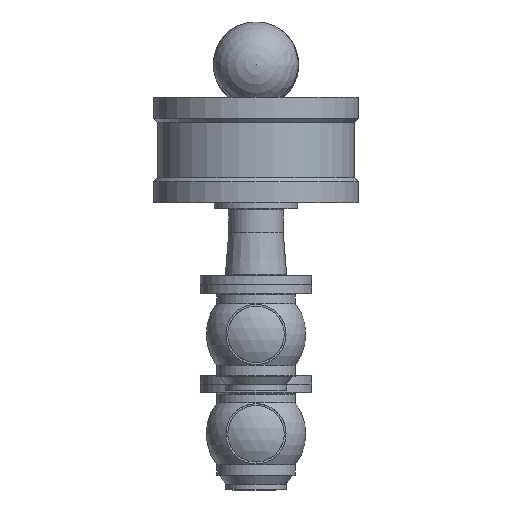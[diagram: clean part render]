
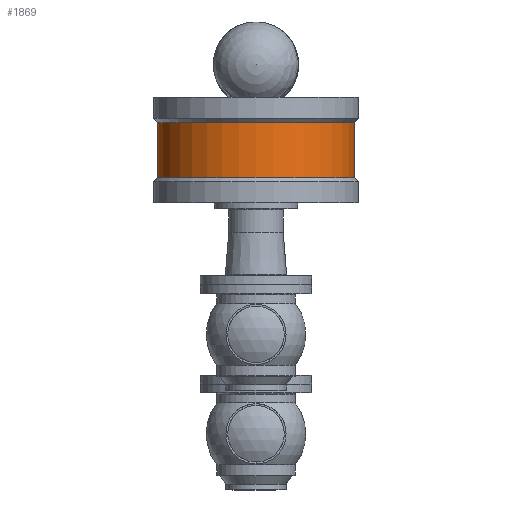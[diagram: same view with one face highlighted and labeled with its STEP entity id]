
A CAD part, left-side view. The second image highlights one B-rep face of the part: STEP entity #1869.
In plain terms, the highlighted cylindrical face has radius 167 mm (diameter 334 mm), a full revolution.
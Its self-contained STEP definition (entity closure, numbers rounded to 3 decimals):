
#210=LINE('',#3331,#258);
#258=VECTOR('',#2624,167.);
#302=CYLINDRICAL_SURFACE('',#2177,167.);
#384=FACE_OUTER_BOUND('',#494,.T.);
#494=EDGE_LOOP('',(#1401,#1402,#1403,#1404,#1405,#1406));
#644=CIRCLE('',#2175,167.);
#645=CIRCLE('',#2176,167.);
#646=CIRCLE('',#2178,167.);
#647=CIRCLE('',#2179,167.);
#846=VERTEX_POINT('',#3321);
#847=VERTEX_POINT('',#3322);
#848=VERTEX_POINT('',#3327);
#849=VERTEX_POINT('',#3328);
#1065=EDGE_CURVE('',#846,#847,#644,.T.);
#1066=EDGE_CURVE('',#847,#846,#645,.T.);
#1068=EDGE_CURVE('',#848,#849,#646,.T.);
#1069=EDGE_CURVE('',#849,#848,#647,.T.);
#1070=EDGE_CURVE('',#849,#847,#210,.T.);
#1401=ORIENTED_EDGE('',*,*,#1068,.F.);
#1402=ORIENTED_EDGE('',*,*,#1069,.F.);
#1403=ORIENTED_EDGE('',*,*,#1070,.T.);
#1404=ORIENTED_EDGE('',*,*,#1066,.T.);
#1405=ORIENTED_EDGE('',*,*,#1065,.T.);
#1406=ORIENTED_EDGE('',*,*,#1070,.F.);
#1869=ADVANCED_FACE('',(#384),#302,.T.);
#2175=AXIS2_PLACEMENT_3D('',#3323,#2613,#2614);
#2176=AXIS2_PLACEMENT_3D('',#3324,#2615,#2616);
#2177=AXIS2_PLACEMENT_3D('',#3326,#2618,#2619);
#2178=AXIS2_PLACEMENT_3D('',#3329,#2620,#2621);
#2179=AXIS2_PLACEMENT_3D('',#3330,#2622,#2623);
#2613=DIRECTION('center_axis',(-1.,0.,0.));
#2614=DIRECTION('ref_axis',(0.,0.,1.));
#2615=DIRECTION('center_axis',(-1.,0.,0.));
#2616=DIRECTION('ref_axis',(0.,0.,1.));
#2618=DIRECTION('center_axis',(-1.,0.,0.));
#2619=DIRECTION('ref_axis',(0.,0.,1.));
#2620=DIRECTION('center_axis',(-1.,0.,0.));
#2621=DIRECTION('ref_axis',(0.,0.,1.));
#2622=DIRECTION('center_axis',(-1.,0.,0.));
#2623=DIRECTION('ref_axis',(0.,0.,1.));
#2624=DIRECTION('',(1.,0.,0.));
#3321=CARTESIAN_POINT('',(-45.5,0.,167.));
#3322=CARTESIAN_POINT('',(-45.5,0.,-167.));
#3323=CARTESIAN_POINT('Origin',(-45.5,0.,0.));
#3324=CARTESIAN_POINT('Origin',(-45.5,0.,0.));
#3326=CARTESIAN_POINT('Origin',(-92.,0.,0.));
#3327=CARTESIAN_POINT('',(-138.5,0.,167.));
#3328=CARTESIAN_POINT('',(-138.5,0.,-167.));
#3329=CARTESIAN_POINT('Origin',(-138.5,0.,0.));
#3330=CARTESIAN_POINT('Origin',(-138.5,0.,0.));
#3331=CARTESIAN_POINT('',(-92.,0.,-167.));
